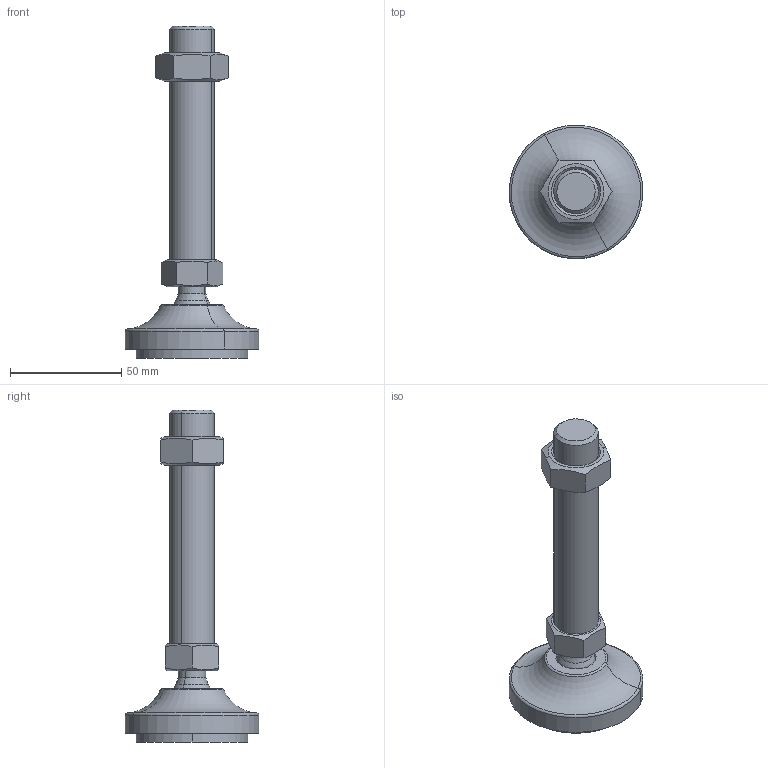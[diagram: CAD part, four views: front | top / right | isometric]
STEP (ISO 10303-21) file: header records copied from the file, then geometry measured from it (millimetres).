
FILE_DESCRIPTION(('CATIA V5 STEP Exchange'),'2;1');
FILE_NAME('C:\Users\ALI OZGUN\Desktop\alhan\saplama2\560602615AV.stp','2017-09-21T10:30:07+00:00',('none'),('none'),'CATIA Version 5 Release 21 GA (IN-10)','CATIA V5 STEP AP203','none');
FILE_SCHEMA(('CONFIG_CONTROL_DESIGN'));
Length unit declared in the file: millimetre
Products named in the file (1): 560602615AV
Bounding box: 59.98 x 59.98 x 149 mm (x, y, z)
Volume: 89238.2 mm3; surface area: 26157.4 mm2
Topology: 4 solids, 4 shells, 64 faces, 142 edges, 87 vertices
Faces by surface type: plane 22, cylinder 16, cone 16, torus 6, revolution 2, sphere 2
Entity records: 1952 total; most frequent: CARTESIAN_POINT 644, ORIENTED_EDGE 280, DIRECTION 198, EDGE_CURVE 140, AXIS2_PLACEMENT_3D 107, VERTEX_POINT 87, EDGE_LOOP 71, ADVANCED_FACE 64
